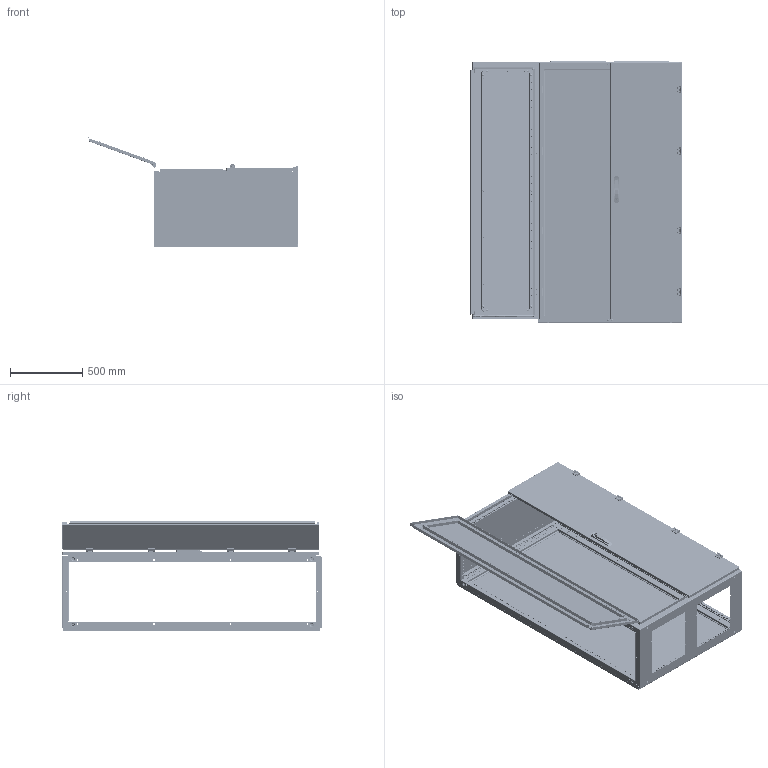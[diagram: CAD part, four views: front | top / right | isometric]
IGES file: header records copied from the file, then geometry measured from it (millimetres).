
Start section: SolidWorks IGES file using analytic representation for surfaces
Global section: file name: U:\14_RD\05_Technical_office\04_Office\Hrdinova\3D modely - IGES\Distri\QA181005.IGS; native system: SolidWorks 2011; preprocessor: SolidWorks 2011; author: adhrja3; date: 170612.084424; units: millimetre
Bounding box: 1468.78 x 1804.5 x 762.7 mm (x, y, z)
Surface area: 15037152 mm2 (no closed solid volume)
Topology: 0 solids, 0 shells, 8644 faces, 144898 edges, 144584 vertices
Faces by surface type: bspline 4559, revolution 4085
